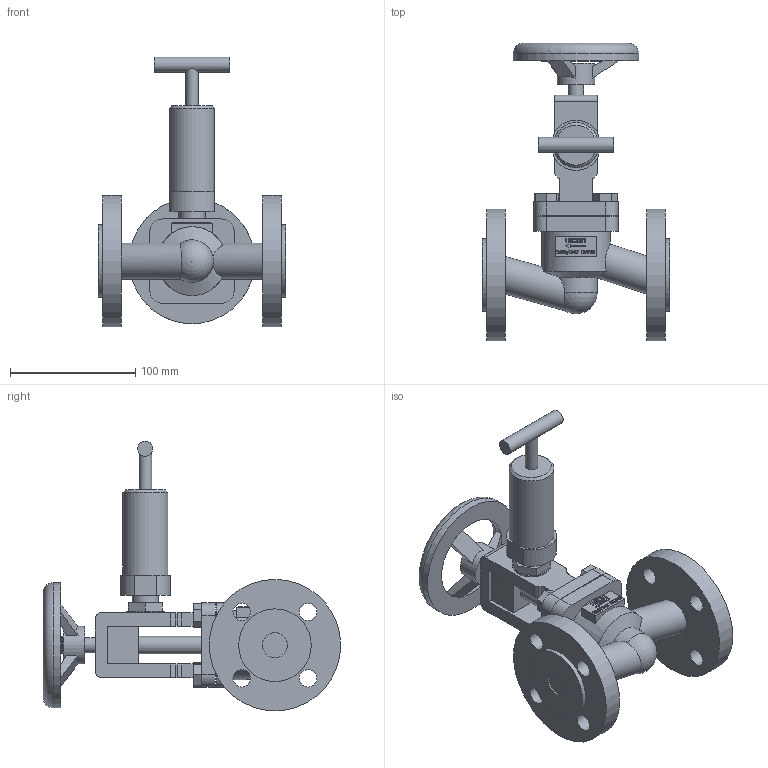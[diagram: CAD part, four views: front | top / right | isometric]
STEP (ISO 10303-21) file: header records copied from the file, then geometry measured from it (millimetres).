
FILE_DESCRIPTION(/* description */ (''),/* implementation_level */ '2;1');
FILE_NAME(/* name */ '100-247HP-DN20-PN16.stp',/* time_stamp */ '2024-07-08T21:34:51+02:00',/* author */ ('roger.thijssen'),/* organization */ (''),/* preprocessor_version */ 'ST-DEVELOPER v20',/* originating_system */ 'Autodesk Inventor 2024',/* authorisation */ '');
FILE_SCHEMA (('AUTOMOTIVE_DESIGN { 1 0 10303 214 3 1 1 }'));
Length unit declared in the file: millimetre
Products named in the file (1): 100-247HP-DN20-PN16
Bounding box: 150 x 237.5 x 215.5 mm (x, y, z)
Volume: 803407 mm3; surface area: 136388.9 mm2
Topology: 1 solids, 1 shells, 384 faces, 1018 edges, 674 vertices
Faces by surface type: plane 244, cylinder 71, bspline 64, cone 3, torus 1, sphere 1
Full cylindrical faces by diameter (mm): 10 x1, 12 x2, 14 x9, 20 x2, 21 x1, 29 x2, 30 x2, 36 x1, 50 x1, 55 x1, 58 x2, 100 x1, 105 x2
Entity records: 13079 total; most frequent: CARTESIAN_POINT 3303, ORIENTED_EDGE 2034, DIRECTION 1692, EDGE_CURVE 1017, LINE 690, VECTOR 690, VERTEX_POINT 674, AXIS2_PLACEMENT_3D 501
